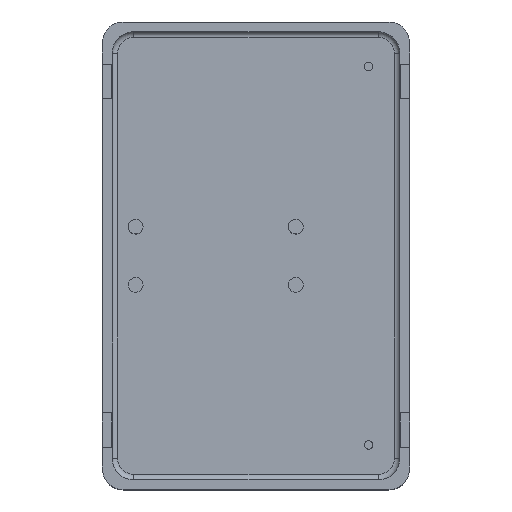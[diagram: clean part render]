
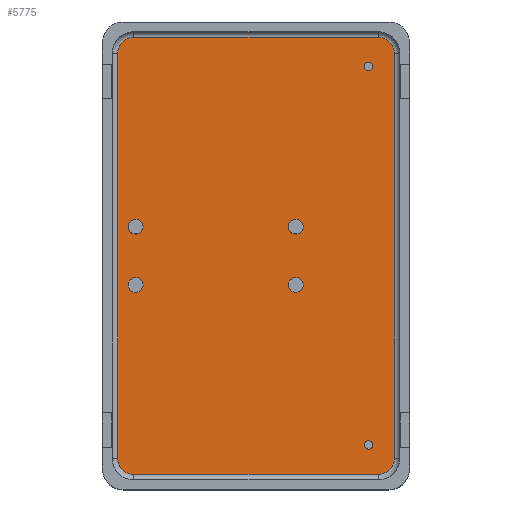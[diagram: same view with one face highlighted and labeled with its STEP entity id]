
A CAD part, top view. The second image highlights one B-rep face of the part: STEP entity #5775.
In plain terms, the highlighted planar face has unit normal (0, 0, 1).
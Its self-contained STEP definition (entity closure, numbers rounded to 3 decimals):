
#125=CIRCLE('',#6125,1.41);
#126=CIRCLE('',#6126,1.41);
#127=CIRCLE('',#6127,1.41);
#128=CIRCLE('',#6128,1.41);
#129=CIRCLE('',#6129,0.645);
#130=CIRCLE('',#6130,0.645);
#131=CIRCLE('',#6131,0.365);
#132=CIRCLE('',#6132,0.645);
#133=CIRCLE('',#6133,0.365);
#134=CIRCLE('',#6134,0.645);
#461=VERTEX_POINT('',#8509);
#462=VERTEX_POINT('',#8510);
#463=VERTEX_POINT('',#8512);
#464=VERTEX_POINT('',#8514);
#465=VERTEX_POINT('',#8516);
#466=VERTEX_POINT('',#8518);
#467=VERTEX_POINT('',#8520);
#468=VERTEX_POINT('',#8522);
#469=VERTEX_POINT('',#8525);
#470=VERTEX_POINT('',#8527);
#471=VERTEX_POINT('',#8529);
#472=VERTEX_POINT('',#8531);
#473=VERTEX_POINT('',#8533);
#474=VERTEX_POINT('',#8535);
#1032=VECTOR('',#6774,1.);
#1033=VECTOR('',#6777,1.);
#1034=VECTOR('',#6780,1.);
#1035=VECTOR('',#6783,1.);
#1795=LINE('',#8511,#1032);
#1796=LINE('',#8515,#1033);
#1797=LINE('',#8519,#1034);
#1798=LINE('',#8523,#1035);
#2579=EDGE_CURVE('',#461,#462,#125,.T.);
#2580=EDGE_CURVE('',#463,#461,#1795,.T.);
#2581=EDGE_CURVE('',#464,#463,#126,.T.);
#2582=EDGE_CURVE('',#465,#464,#1796,.T.);
#2583=EDGE_CURVE('',#466,#465,#127,.T.);
#2584=EDGE_CURVE('',#467,#466,#1797,.T.);
#2585=EDGE_CURVE('',#468,#467,#128,.T.);
#2586=EDGE_CURVE('',#462,#468,#1798,.T.);
#2587=EDGE_CURVE('',#469,#469,#129,.T.);
#2588=EDGE_CURVE('',#470,#470,#130,.T.);
#2589=EDGE_CURVE('',#471,#471,#131,.T.);
#2590=EDGE_CURVE('',#472,#472,#132,.T.);
#2591=EDGE_CURVE('',#473,#473,#133,.T.);
#2592=EDGE_CURVE('',#474,#474,#134,.T.);
#3462=ORIENTED_EDGE('',*,*,#2579,.F.);
#3463=ORIENTED_EDGE('',*,*,#2580,.F.);
#3464=ORIENTED_EDGE('',*,*,#2581,.F.);
#3465=ORIENTED_EDGE('',*,*,#2582,.F.);
#3466=ORIENTED_EDGE('',*,*,#2583,.F.);
#3467=ORIENTED_EDGE('',*,*,#2584,.F.);
#3468=ORIENTED_EDGE('',*,*,#2585,.F.);
#3469=ORIENTED_EDGE('',*,*,#2586,.F.);
#3470=ORIENTED_EDGE('',*,*,#2587,.F.);
#3471=ORIENTED_EDGE('',*,*,#2588,.F.);
#3472=ORIENTED_EDGE('',*,*,#2589,.F.);
#3473=ORIENTED_EDGE('',*,*,#2590,.F.);
#3474=ORIENTED_EDGE('',*,*,#2591,.F.);
#3475=ORIENTED_EDGE('',*,*,#2592,.F.);
#4999=EDGE_LOOP('',(#3462,#3463,#3464,#3465,#3466,#3467,#3468,#3469));
#5000=EDGE_LOOP('',(#3470));
#5001=EDGE_LOOP('',(#3471));
#5002=EDGE_LOOP('',(#3472));
#5003=EDGE_LOOP('',(#3473));
#5004=EDGE_LOOP('',(#3474));
#5005=EDGE_LOOP('',(#3475));
#5396=FACE_BOUND('',#4999,.T.);
#5397=FACE_BOUND('',#5000,.T.);
#5398=FACE_BOUND('',#5001,.T.);
#5399=FACE_BOUND('',#5002,.T.);
#5400=FACE_BOUND('',#5003,.T.);
#5401=FACE_BOUND('',#5004,.T.);
#5402=FACE_BOUND('',#5005,.T.);
#5775=ADVANCED_FACE('',(#5396,#5397,#5398,#5399,#5400,#5401,#5402),#10446,
 .T.);
#6124=AXIS2_PLACEMENT_3D('',#8507,#6771,$);
#6125=AXIS2_PLACEMENT_3D('',#8508,#6772,#6773);
#6126=AXIS2_PLACEMENT_3D('',#8513,#6775,#6776);
#6127=AXIS2_PLACEMENT_3D('',#8517,#6778,#6779);
#6128=AXIS2_PLACEMENT_3D('',#8521,#6781,#6782);
#6129=AXIS2_PLACEMENT_3D('',#8524,#6784,#6785);
#6130=AXIS2_PLACEMENT_3D('',#8526,#6786,#6787);
#6131=AXIS2_PLACEMENT_3D('',#8528,#6788,#6789);
#6132=AXIS2_PLACEMENT_3D('',#8530,#6790,#6791);
#6133=AXIS2_PLACEMENT_3D('',#8532,#6792,#6793);
#6134=AXIS2_PLACEMENT_3D('',#8534,#6794,#6795);
#6771=DIRECTION('',(0.,0.,1.));
#6772=DIRECTION('',(0.,0.,-1.));
#6773=DIRECTION('',(0.997,-0.997,0.));
#6774=DIRECTION('',(0.,1.,0.));
#6775=DIRECTION('',(0.,0.,-1.));
#6776=DIRECTION('',(1.41,0.,0.));
#6777=DIRECTION('',(-1.,0.,0.));
#6778=DIRECTION('',(0.,0.,-1.));
#6779=DIRECTION('',(-1.41,0.,0.));
#6780=DIRECTION('',(0.,-1.,0.));
#6781=DIRECTION('',(0.,0.,-1.));
#6782=DIRECTION('',(-0.997,-0.997,0.));
#6783=DIRECTION('',(1.,0.,0.));
#6784=DIRECTION('',(0.,0.,1.));
#6785=DIRECTION('',(-0.483,0.427,0.));
#6786=DIRECTION('',(0.,0.,1.));
#6787=DIRECTION('',(-0.483,0.427,0.));
#6788=DIRECTION('',(0.,0.,1.));
#6789=DIRECTION('',(0.362,-0.045,0.));
#6790=DIRECTION('',(0.,0.,1.));
#6791=DIRECTION('',(-0.483,0.427,0.));
#6792=DIRECTION('',(0.,0.,1.));
#6793=DIRECTION('',(0.365,0.,0.));
#6794=DIRECTION('',(0.,0.,1.));
#6795=DIRECTION('',(-0.483,0.427,0.));
#8507=CARTESIAN_POINT('',(-0.095,0.095,15.6));
#8508=CARTESIAN_POINT('',(-10.745,17.745,15.6));
#8509=CARTESIAN_POINT('',(-12.155,17.745,15.6));
#8510=CARTESIAN_POINT('',(-10.745,19.155,15.6));
#8511=CARTESIAN_POINT('',(-12.155,0.095,15.6));
#8512=CARTESIAN_POINT('',(-12.155,-17.555,15.6));
#8513=CARTESIAN_POINT('',(-10.745,-17.555,15.6));
#8514=CARTESIAN_POINT('',(-10.745,-18.965,15.6));
#8515=CARTESIAN_POINT('',(-0.095,-18.965,15.6));
#8516=CARTESIAN_POINT('',(10.555,-18.965,15.6));
#8517=CARTESIAN_POINT('',(10.555,-17.555,15.6));
#8518=CARTESIAN_POINT('',(11.965,-17.555,15.6));
#8519=CARTESIAN_POINT('',(11.965,0.095,15.6));
#8520=CARTESIAN_POINT('',(11.965,17.745,15.6));
#8521=CARTESIAN_POINT('',(10.555,17.745,15.6));
#8522=CARTESIAN_POINT('',(10.555,19.155,15.6));
#8523=CARTESIAN_POINT('',(-0.095,19.155,15.6));
#8524=CARTESIAN_POINT('',(3.375,2.635,15.6));
#8525=CARTESIAN_POINT('',(3.858,2.208,15.6));
#8526=CARTESIAN_POINT('',(3.375,-2.445,15.6));
#8527=CARTESIAN_POINT('',(3.858,-2.872,15.6));
#8528=CARTESIAN_POINT('',(9.725,-16.415,15.6));
#8529=CARTESIAN_POINT('',(9.363,-16.37,15.6));
#8530=CARTESIAN_POINT('',(-10.595,-2.445,15.6));
#8531=CARTESIAN_POINT('',(-10.112,-2.872,15.6));
#8532=CARTESIAN_POINT('',(9.725,16.605,15.6));
#8533=CARTESIAN_POINT('',(9.36,16.605,15.6));
#8534=CARTESIAN_POINT('',(-10.595,2.635,15.6));
#8535=CARTESIAN_POINT('',(-10.112,2.208,15.6));
#10446=PLANE('',#6124);
